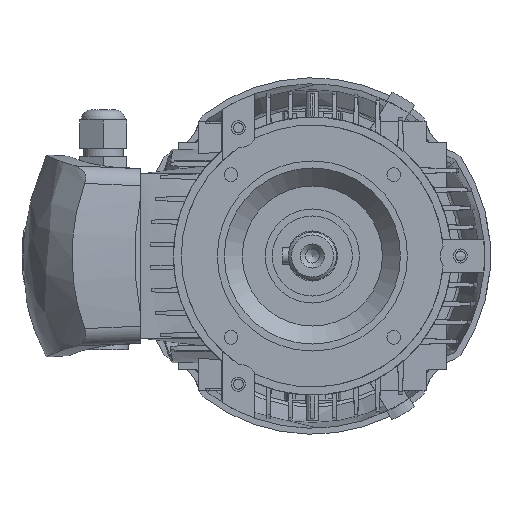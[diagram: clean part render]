
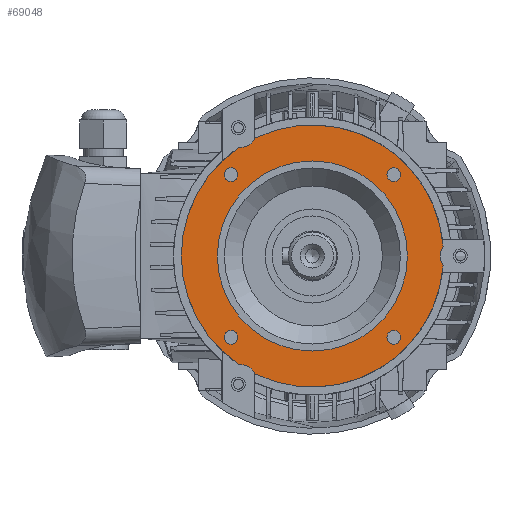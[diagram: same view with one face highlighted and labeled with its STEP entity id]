
A CAD part, left-side view. The second image highlights one B-rep face of the part: STEP entity #69048.
In plain terms, the highlighted planar face has unit normal (-1, 0, 0).
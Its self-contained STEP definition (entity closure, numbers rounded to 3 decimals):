
#66300=CARTESIAN_POINT('',(3.,-40.659,44.059));
#66301=VERTEX_POINT('',#66300);
#66302=CARTESIAN_POINT('',(3.,-40.659,40.659));
#66303=DIRECTION('',(-1.0,0.0,0.0));
#66304=DIRECTION('',(0.0,0.0,1.0));
#66305=AXIS2_PLACEMENT_3D('',#66302,#66303,#66304);
#66306=CIRCLE('',#66305,3.4);
#66307=EDGE_CURVE('',#66301,#66301,#66306,.T.);
#66328=CARTESIAN_POINT('',(3.,40.659,44.059));
#66329=VERTEX_POINT('',#66328);
#66330=CARTESIAN_POINT('',(3.,40.659,40.659));
#66331=DIRECTION('',(-1.0,0.0,0.0));
#66332=DIRECTION('',(0.0,0.0,1.0));
#66333=AXIS2_PLACEMENT_3D('',#66330,#66331,#66332);
#66334=CIRCLE('',#66333,3.4);
#66335=EDGE_CURVE('',#66329,#66329,#66334,.T.);
#66356=CARTESIAN_POINT('',(3.,40.659,-37.259));
#66357=VERTEX_POINT('',#66356);
#66358=CARTESIAN_POINT('',(3.,40.659,-40.659));
#66359=DIRECTION('',(-1.0,0.0,0.0));
#66360=DIRECTION('',(0.0,0.0,1.0));
#66361=AXIS2_PLACEMENT_3D('',#66358,#66359,#66360);
#66362=CIRCLE('',#66361,3.4);
#66363=EDGE_CURVE('',#66357,#66357,#66362,.T.);
#66384=CARTESIAN_POINT('',(3.,-40.659,-37.259));
#66385=VERTEX_POINT('',#66384);
#66386=CARTESIAN_POINT('',(3.,-40.659,-40.659));
#66387=DIRECTION('',(-1.0,0.0,0.0));
#66388=DIRECTION('',(0.0,0.0,1.0));
#66389=AXIS2_PLACEMENT_3D('',#66386,#66387,#66388);
#66390=CIRCLE('',#66389,3.4);
#66391=EDGE_CURVE('',#66385,#66385,#66390,.T.);
#67603=CARTESIAN_POINT('',(3.,0.0,47.5));
#67604=VERTEX_POINT('',#67603);
#67605=CARTESIAN_POINT('',(3.,0.0,0.0));
#67606=DIRECTION('',(-1.0,0.0,0.0));
#67607=DIRECTION('',(0.0,0.0,1.0));
#67608=AXIS2_PLACEMENT_3D('',#67605,#67606,#67607);
#67609=CIRCLE('',#67608,47.5);
#67610=EDGE_CURVE('',#67604,#67604,#67609,.T.);
#67982=CARTESIAN_POINT('',(3.,28.367,59.039));
#67983=VERTEX_POINT('',#67982);
#67990=CARTESIAN_POINT('',(3.,-65.313,4.953));
#67991=VERTEX_POINT('',#67990);
#67992=CARTESIAN_POINT('',(3.,0.0,0.0));
#67993=DIRECTION('',(-1.0,0.0,0.0));
#67994=DIRECTION('',(0.0,0.0,1.0));
#67995=AXIS2_PLACEMENT_3D('',#67992,#67993,#67994);
#67996=CIRCLE('',#67995,65.5);
#67997=EDGE_CURVE('',#67991,#67983,#67996,.T.);
#68218=CARTESIAN_POINT('',(3.,-65.313,-4.953));
#68219=VERTEX_POINT('',#68218);
#68226=CARTESIAN_POINT('',(3.,28.367,-59.039));
#68227=VERTEX_POINT('',#68226);
#68228=CARTESIAN_POINT('',(3.,0.0,0.0));
#68229=DIRECTION('',(-1.0,0.0,0.0));
#68230=DIRECTION('',(0.0,0.0,1.0));
#68231=AXIS2_PLACEMENT_3D('',#68228,#68229,#68230);
#68232=CIRCLE('',#68231,65.5);
#68233=EDGE_CURVE('',#68227,#68219,#68232,.T.);
#68372=CARTESIAN_POINT('',(3.,36.945,-54.086));
#68373=VERTEX_POINT('',#68372);
#68380=CARTESIAN_POINT('',(3.,36.945,54.086));
#68381=VERTEX_POINT('',#68380);
#68382=CARTESIAN_POINT('',(3.,0.0,0.0));
#68383=DIRECTION('',(-1.0,0.0,0.0));
#68384=DIRECTION('',(0.0,0.0,1.0));
#68385=AXIS2_PLACEMENT_3D('',#68382,#68383,#68384);
#68386=CIRCLE('',#68385,65.5);
#68387=EDGE_CURVE('',#68381,#68373,#68386,.T.);
#69002=CARTESIAN_POINT('',(3.,47.5,0.0));
#69003=DIRECTION('',(-1.0,0.0,0.0));
#69004=DIRECTION('',(0.0,0.0,1.0));
#69005=AXIS2_PLACEMENT_3D('',#69002,#69003,#69004);
#69006=PLANE('',#69005);
#69007=CARTESIAN_POINT('',(3.,37.,-64.086));
#69008=DIRECTION('',(-1.0,0.0,0.0));
#69009=DIRECTION('',(0.0,0.866,-0.5));
#69010=AXIS2_PLACEMENT_3D('',#69007,#69008,#69009);
#69011=CIRCLE('',#69010,10.);
#69012=EDGE_CURVE('',#68227,#68373,#69011,.T.);
#69013=ORIENTED_EDGE('',*,*,#69012,.F.);
#69014=ORIENTED_EDGE('',*,*,#68233,.T.);
#69015=CARTESIAN_POINT('',(3.,-74.,0.));
#69016=DIRECTION('',(-1.,0.0,0.0));
#69017=DIRECTION('',(0.0,-0.866,-0.5));
#69018=AXIS2_PLACEMENT_3D('',#69015,#69016,#69017);
#69019=CIRCLE('',#69018,10.);
#69020=EDGE_CURVE('',#67991,#68219,#69019,.T.);
#69021=ORIENTED_EDGE('',*,*,#69020,.F.);
#69022=ORIENTED_EDGE('',*,*,#67997,.T.);
#69023=CARTESIAN_POINT('',(3.,37.,64.086));
#69024=DIRECTION('',(-1.0,0.0,0.0));
#69025=DIRECTION('',(0.0,0.0,1.0));
#69026=AXIS2_PLACEMENT_3D('',#69023,#69024,#69025);
#69027=CIRCLE('',#69026,10.);
#69028=EDGE_CURVE('',#68381,#67983,#69027,.T.);
#69029=ORIENTED_EDGE('',*,*,#69028,.F.);
#69030=ORIENTED_EDGE('',*,*,#68387,.T.);
#69031=EDGE_LOOP('',(#69013,#69014,#69021,#69022,#69029,#69030));
#69032=FACE_OUTER_BOUND('',#69031,.T.);
#69033=ORIENTED_EDGE('',*,*,#66335,.F.);
#69034=EDGE_LOOP('',(#69033));
#69035=FACE_BOUND('',#69034,.T.);
#69036=ORIENTED_EDGE('',*,*,#66363,.F.);
#69037=EDGE_LOOP('',(#69036));
#69038=FACE_BOUND('',#69037,.T.);
#69039=ORIENTED_EDGE('',*,*,#66391,.F.);
#69040=EDGE_LOOP('',(#69039));
#69041=FACE_BOUND('',#69040,.T.);
#69042=ORIENTED_EDGE('',*,*,#66307,.F.);
#69043=EDGE_LOOP('',(#69042));
#69044=FACE_BOUND('',#69043,.T.);
#69045=ORIENTED_EDGE('',*,*,#67610,.F.);
#69046=EDGE_LOOP('',(#69045));
#69047=FACE_BOUND('',#69046,.T.);
#69048=ADVANCED_FACE('',(#69032,#69035,#69038,#69041,#69044,#69047),#69006,.T.);
